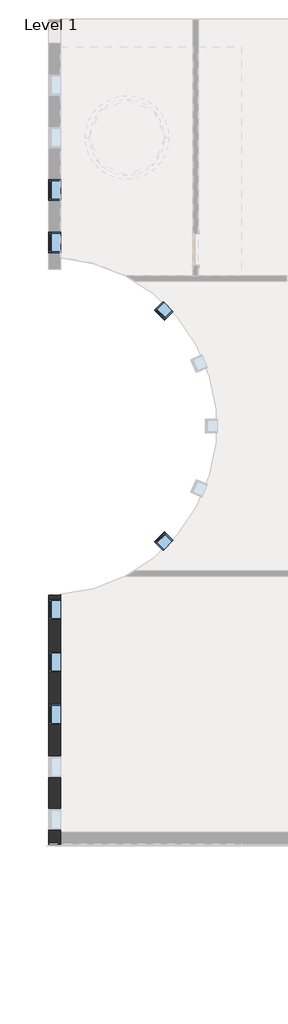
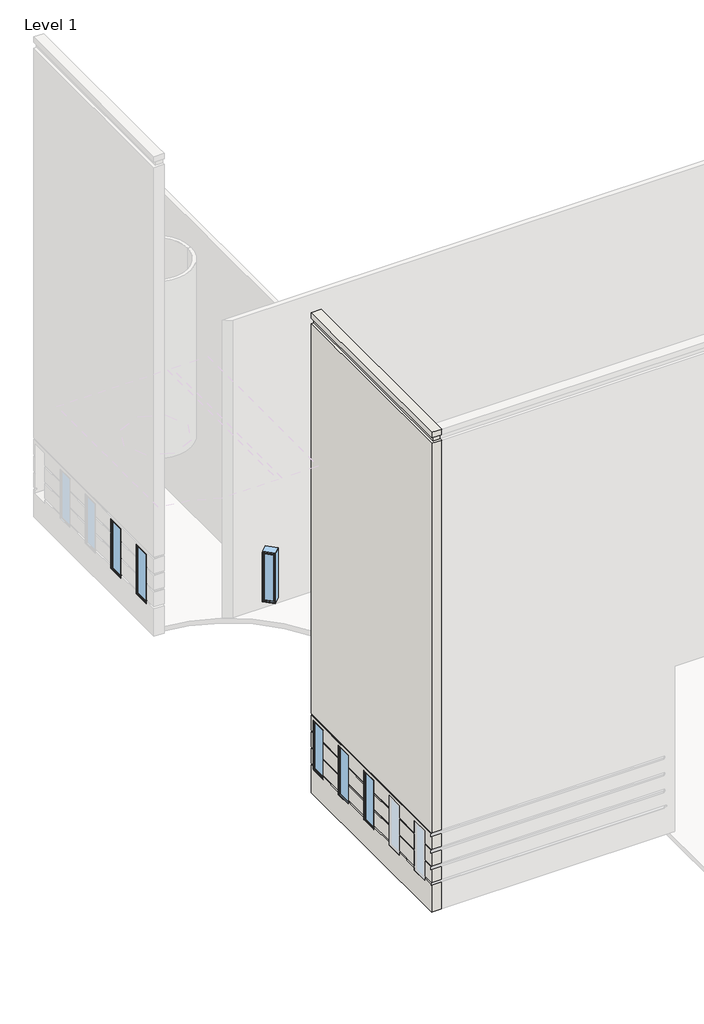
# One storey, part 5 of 16: 7 windows, 1 wall.
"""IFC4 building model written with IfcOpenShell, lengths in millimetres."""

from ifc_helpers import new_model, si_unit, frame, origin, place, context, project, spatial, polyline, circle_curve, transform, mapped, element, save
from ifc_brep_helpers import plane_surface, revolved_surface, advanced_brep
from components import window_9e2da525, window_ff99b6fa, window_103a36ab

model = new_model("IFC4")

# Units and contexts
model_context = context("Model", 3, world=origin())
ifc_project = project(units=[si_unit("LENGTHUNIT", "METRE", prefix="MILLI")], contexts=[model_context])

# Site, building, storey
site = spatial("IfcSite", under=ifc_project)
building = spatial("IfcBuilding", under=site)
storey = spatial("IfcBuildingStorey", under=building, Name="Level 1", Elevation=0.0)

# Wall
placement = place(None, origin())
element("IfcWall", 1, ObjectType="Exterior - Brick and CMU on MTL. Stud (No Parapet)", at=placement, inside=storey, context=model_context, shape_type="AdvancedBrep", body=[
    advanced_brep(
    [(-67574.5273623, 857.0987109, 17678.4), (-67574.5273623, 8124.6737109, 17678.4), (-67574.5273623, 8124.6737109, 17475.2), (-67574.5273623, 857.0987109, 17475.2), (-67574.5273623, 8124.6737109, 0.0), (-67574.5273623, 857.0987109, 0.0), (-67574.5273623, 857.0987109, 1016.0), (-67574.5273623, 1282.5487109, 1016.0), (-67574.5273623, 1282.5487109, 914.4), (-67574.5273623, 1892.1487109, 914.4), (-67574.5273623, 1892.1487109, 1016.0), (-67574.5273623, 2811.3112109, 1016.0), (-67574.5273623, 2811.3112109, 914.4), (-67574.5273623, 3420.9112109, 914.4), (-67574.5273623, 3420.9112109, 1016.0), (-67574.5273623, 4340.0737109, 1016.0), (-67574.5273623, 4340.0737109, 914.4), (-67574.5273623, 4949.6737109, 914.4), (-67574.5273623, 4949.6737109, 1016.0), (-67574.5273623, 5868.8362109, 1016.0), (-67574.5273623, 5868.8362109, 914.4), (-67574.5273623, 6478.4362109, 914.4), (-67574.5273623, 6478.4362109, 1016.0), (-67574.5273623, 7397.5987109, 1016.0), (-67574.5273623, 7397.5987109, 914.4), (-67574.5273623, 8007.1987109, 914.4), (-67574.5273623, 8007.1987109, 1016.0), (-67574.5273623, 8124.6737109, 1016.0), (-67574.5273623, 8124.6737109, 2912.5333333), (-67574.5273623, 857.0987109, 2912.5333333), (-67574.5273623, 857.0987109, 17272.0), (-67574.5273623, 8124.6737109, 17272.0), (-67574.5273623, 8124.6737109, 1625.6), (-67574.5273623, 8124.6737109, 1085.85), (-67574.5273623, 8007.1987109, 1085.85), (-67574.5273623, 8007.1987109, 1625.6), (-67574.5273623, 8124.6737109, 2235.2), (-67574.5273623, 8124.6737109, 1693.3333333), (-67574.5273623, 8007.1987109, 1693.3333333), (-67574.5273623, 8007.1987109, 2235.2), (-67574.5273623, 8124.6737109, 2844.8), (-67574.5273623, 8124.6737109, 2302.9333333), (-67574.5273623, 8007.1987109, 2302.9333333), (-67574.5273623, 8007.1987109, 2743.2), (-67574.5273623, 7397.5987109, 2743.2), (-67574.5273623, 7397.5987109, 2302.9333333), (-67574.5273623, 6478.4362109, 2302.9333333), (-67574.5273623, 6478.4362109, 2743.2), (-67574.5273623, 5868.8362109, 2743.2), (-67574.5273623, 5868.8362109, 2302.9333333), (-67574.5273623, 4949.6737109, 2302.9333333), (-67574.5273623, 4949.6737109, 2743.2), (-67574.5273623, 4340.0737109, 2743.2), (-67574.5273623, 4340.0737109, 2302.9333333), (-67574.5273623, 3420.9112109, 2302.9333333), (-67574.5273623, 3420.9112109, 2743.2), (-67574.5273623, 2811.3112109, 2743.2), (-67574.5273623, 2811.3112109, 2302.9333333), (-67574.5273623, 1892.1487109, 2302.9333333), (-67574.5273623, 1892.1487109, 2743.2), (-67574.5273623, 1282.5487109, 2743.2), (-67574.5273623, 1282.5487109, 2302.9333333), (-67574.5273623, 857.0987109, 2302.9333333), (-67574.5273623, 857.0987109, 2844.8), (-67574.5273623, 857.0987109, 1693.3333333), (-67574.5273623, 857.0987109, 2235.2), (-67574.5273623, 1282.5487109, 2235.2), (-67574.5273623, 1282.5487109, 1693.3333333), (-67574.5273623, 857.0987109, 1085.85), (-67574.5273623, 857.0987109, 1625.6), (-67574.5273623, 1282.5487109, 1625.6), (-67574.5273623, 1282.5487109, 1085.85), (-67574.5273623, 1892.1487109, 1625.6), (-67574.5273623, 2811.3112109, 1625.6), (-67574.5273623, 2811.3112109, 1085.85), (-67574.5273623, 1892.1487109, 1085.85), (-67574.5273623, 2811.3112109, 1693.3333333), (-67574.5273623, 1892.1487109, 1693.3333333), (-67574.5273623, 1892.1487109, 2235.2), (-67574.5273623, 2811.3112109, 2235.2), (-67574.5273623, 3420.9112109, 1625.6), (-67574.5273623, 4340.0737109, 1625.6), (-67574.5273623, 4340.0737109, 1085.85), (-67574.5273623, 3420.9112109, 1085.85), (-67574.5273623, 4340.0737109, 1693.3333333), (-67574.5273623, 3420.9112109, 1693.3333333), (-67574.5273623, 3420.9112109, 2235.2), (-67574.5273623, 4340.0737109, 2235.2), (-67574.5273623, 4949.6737109, 1625.6), (-67574.5273623, 5868.8362109, 1625.6), (-67574.5273623, 5868.8362109, 1085.85), (-67574.5273623, 4949.6737109, 1085.85), (-67574.5273623, 5868.8362109, 1693.3333333), (-67574.5273623, 4949.6737109, 1693.3333333), (-67574.5273623, 4949.6737109, 2235.2), (-67574.5273623, 5868.8362109, 2235.2), (-67574.5273623, 6478.4362109, 1625.6), (-67574.5273623, 7397.5987109, 1625.6), (-67574.5273623, 7397.5987109, 1085.85), (-67574.5273623, 6478.4362109, 1085.85), (-67574.5273623, 7397.5987109, 1693.3333333), (-67574.5273623, 6478.4362109, 1693.3333333), (-67574.5273623, 6478.4362109, 2235.2), (-67574.5273623, 7397.5987109, 2235.2), (-67222.1023623, 857.0987109, 0.0), (-67222.1023623, 1209.5237109, 0.0), (-67222.1023623, 8137.3008527, 0.0), (-67222.1023623, 8137.3008527, 17678.4), (-67222.1023623, 1209.5237109, 17678.4), (-67222.1023623, 857.0987109, 17678.4), (-67222.1023623, 857.0987109, 17475.2), (-67222.1023623, 949.1737109, 17475.2), (-67222.1023623, 949.1737109, 17272.0), (-67222.1023623, 857.0987109, 17272.0), (-67222.1023623, 857.0987109, 2912.5333333), (-67222.1023623, 882.4987109, 2912.5333333), (-67222.1023623, 882.4987109, 2844.8), (-67222.1023623, 857.0987109, 2844.8), (-67222.1023623, 857.0987109, 2302.9333333), (-67222.1023623, 882.4987109, 2302.9333333), (-67222.1023623, 882.4987109, 2235.2), (-67222.1023623, 857.0987109, 2235.2), (-67222.1023623, 857.0987109, 1693.3333333), (-67222.1023623, 882.4987109, 1693.3333333), (-67222.1023623, 882.4987109, 1625.6), (-67222.1023623, 857.0987109, 1625.6), (-67222.1023623, 857.0987109, 1085.85), (-67222.1023623, 949.1737109, 1085.85), (-67222.1023623, 949.1737109, 1016.0), (-67222.1023623, 857.0987109, 1016.0), (-67222.1023623, 2811.3112109, 914.4), (-67222.1023623, 2811.3112109, 2743.2), (-67222.1023623, 3420.9112109, 2743.2), (-67222.1023623, 3420.9112109, 914.4), (-67222.1023623, 4340.0737109, 914.4), (-67222.1023623, 4340.0737109, 2743.2), (-67222.1023623, 4949.6737109, 2743.2), (-67222.1023623, 4949.6737109, 914.4), (-67222.1023623, 5868.8362109, 914.4), (-67222.1023623, 5868.8362109, 2743.2), (-67222.1023623, 6478.4362109, 2743.2), (-67222.1023623, 6478.4362109, 914.4), (-67222.1023623, 1282.5487109, 914.4), (-67222.1023623, 1282.5487109, 2743.2), (-67222.1023623, 1892.1487109, 2743.2), (-67222.1023623, 1892.1487109, 914.4), (-67222.1023623, 7397.5987109, 914.4), (-67222.1023623, 7397.5987109, 2743.2), (-67222.1023623, 8007.1987109, 2743.2), (-67222.1023623, 8007.1987109, 914.4), (-67482.4523623, 857.0987109, 0.0), (-67482.4523623, 8125.5345776, 0.0), (-67549.1273623, 8007.1987109, 1693.3333333), (-67549.1273623, 8124.7392175, 1693.3333333), (-67549.1273623, 8124.7392175, 1625.6), (-67549.1273623, 8007.1987109, 1625.6), (-67549.1273623, 8007.1987109, 2302.9333333), (-67549.1273623, 8124.7392175, 2302.9333333), (-67549.1273623, 8124.7392175, 2235.2), (-67549.1273623, 8007.1987109, 2235.2), (-67549.1273623, 882.4987109, 2912.5333333), (-67549.1273623, 8124.7392175, 2912.5333333), (-67549.1273623, 8124.7392175, 2844.8), (-67549.1273623, 882.4987109, 2844.8), (-67482.4523623, 8007.1987109, 1085.85), (-67482.4523623, 8125.5345776, 1085.85), (-67482.4523623, 8125.5345776, 1016.0), (-67482.4523623, 8007.1987109, 1016.0), (-67482.4523623, 949.1737109, 17272.0), (-67482.4523623, 949.1737109, 17475.2), (-67482.4523623, 8125.5345776, 17475.2), (-67482.4523623, 8125.5345776, 17272.0), (-67549.1273623, 882.4987109, 1693.3333333), (-67549.1273623, 882.4987109, 1625.6), (-67549.1273623, 882.4987109, 2302.9333333), (-67549.1273623, 882.4987109, 2235.2), (-67482.4523623, 949.1737109, 1085.85), (-67482.4523623, 949.1737109, 1016.0), (-67482.4523623, 2811.3112109, 1016.0), (-67482.4523623, 2811.3112109, 1085.85), (-67549.1273623, 2811.3112109, 1625.6), (-67549.1273623, 2811.3112109, 1693.3333333), (-67549.1273623, 2811.3112109, 2235.2), (-67549.1273623, 2811.3112109, 2302.9333333), (-67549.1273623, 3420.9112109, 2302.9333333), (-67549.1273623, 3420.9112109, 2235.2), (-67549.1273623, 3420.9112109, 1693.3333333), (-67549.1273623, 3420.9112109, 1625.6), (-67482.4523623, 3420.9112109, 1085.85), (-67482.4523623, 3420.9112109, 1016.0), (-67482.4523623, 4340.0737109, 1016.0), (-67482.4523623, 4340.0737109, 1085.85), (-67549.1273623, 4340.0737109, 1625.6), (-67549.1273623, 4340.0737109, 1693.3333333), (-67549.1273623, 4340.0737109, 2235.2), (-67549.1273623, 4340.0737109, 2302.9333333), (-67549.1273623, 4949.6737109, 2302.9333333), (-67549.1273623, 4949.6737109, 2235.2), (-67549.1273623, 4949.6737109, 1693.3333333), (-67549.1273623, 4949.6737109, 1625.6), (-67482.4523623, 4949.6737109, 1085.85), (-67482.4523623, 4949.6737109, 1016.0), (-67482.4523623, 5868.8362109, 1016.0), (-67482.4523623, 5868.8362109, 1085.85), (-67549.1273623, 5868.8362109, 1625.6), (-67549.1273623, 5868.8362109, 1693.3333333), (-67549.1273623, 5868.8362109, 2235.2), (-67549.1273623, 5868.8362109, 2302.9333333), (-67549.1273623, 6478.4362109, 2302.9333333), (-67549.1273623, 6478.4362109, 2235.2), (-67549.1273623, 6478.4362109, 1693.3333333), (-67549.1273623, 6478.4362109, 1625.6), (-67482.4523623, 6478.4362109, 1085.85), (-67482.4523623, 6478.4362109, 1016.0), (-67482.4523623, 1282.5487109, 1016.0), (-67482.4523623, 1282.5487109, 1085.85), (-67549.1273623, 1282.5487109, 1625.6), (-67549.1273623, 1282.5487109, 1693.3333333), (-67549.1273623, 1282.5487109, 2235.2), (-67549.1273623, 1282.5487109, 2302.9333333), (-67549.1273623, 1892.1487109, 2302.9333333), (-67549.1273623, 1892.1487109, 2235.2), (-67549.1273623, 1892.1487109, 1693.3333333), (-67549.1273623, 1892.1487109, 1625.6), (-67482.4523623, 1892.1487109, 1085.85), (-67482.4523623, 1892.1487109, 1016.0), (-67482.4523623, 7397.5987109, 1016.0), (-67482.4523623, 7397.5987109, 1085.85), (-67549.1273623, 7397.5987109, 1625.6), (-67549.1273623, 7397.5987109, 1693.3333333), (-67549.1273623, 7397.5987109, 2235.2), (-67549.1273623, 7397.5987109, 2302.9333333)],
    [
        (0, 1),
        (1, 2),
        (2, 3),
        (3, 0),
        (4, 5),
        (5, 6),
        (6, 7),
        (7, 8),
        (8, 9),
        (9, 10),
        (10, 11),
        (11, 12),
        (12, 13),
        (13, 14),
        (14, 15),
        (15, 16),
        (16, 17),
        (17, 18),
        (18, 19),
        (19, 20),
        (20, 21),
        (21, 22),
        (22, 23),
        (23, 24),
        (24, 25),
        (25, 26),
        (26, 27),
        (27, 4),
        (28, 29),
        (29, 30),
        (30, 31),
        (31, 28),
        (32, 33),
        (33, 34),
        (34, 35),
        (35, 32),
        (36, 37),
        (37, 38),
        (38, 39),
        (39, 36),
        (40, 41),
        (41, 42),
        (42, 43),
        (43, 44),
        (44, 45),
        (45, 46),
        (46, 47),
        (47, 48),
        (48, 49),
        (49, 50),
        (50, 51),
        (51, 52),
        (52, 53),
        (53, 54),
        (54, 55),
        (55, 56),
        (56, 57),
        (57, 58),
        (58, 59),
        (59, 60),
        (60, 61),
        (61, 62),
        (62, 63),
        (63, 40),
        (64, 65),
        (65, 66),
        (66, 67),
        (67, 64),
        (68, 69),
        (69, 70),
        (70, 71),
        (71, 68),
        (72, 73),
        (73, 74),
        (74, 75),
        (75, 72),
        (76, 77),
        (77, 78),
        (78, 79),
        (79, 76),
        (80, 81),
        (81, 82),
        (82, 83),
        (83, 80),
        (84, 85),
        (85, 86),
        (86, 87),
        (87, 84),
        (88, 89),
        (89, 90),
        (90, 91),
        (91, 88),
        (92, 93),
        (93, 94),
        (94, 95),
        (95, 92),
        (96, 97),
        (97, 98),
        (98, 99),
        (99, 96),
        (100, 101),
        (101, 102),
        (102, 103),
        (103, 100),
        (104, 105),
        (105, 106),
        (106, 107),
        (107, 108),
        (108, 109),
        (109, 110),
        (110, 111),
        (111, 112),
        (112, 113),
        (113, 114),
        (114, 115),
        (115, 116),
        (116, 117),
        (117, 118),
        (118, 119),
        (119, 120),
        (120, 121),
        (121, 122),
        (122, 123),
        (123, 124),
        (124, 125),
        (125, 126),
        (126, 127),
        (127, 128),
        (128, 129),
        (129, 104),
        (130, 131),
        (131, 132),
        (132, 133),
        (133, 130),
        (134, 135),
        (135, 136),
        (136, 137),
        (137, 134),
        (138, 139),
        (139, 140),
        (140, 141),
        (141, 138),
        (142, 143),
        (143, 144),
        (144, 145),
        (145, 142),
        (146, 147),
        (147, 148),
        (148, 149),
        (149, 146),
        (0, 109),
        (107, 1, circle_curve(frame((-67574.5273623, 13049.0987109, 17678.4), z_axis=(0.0, 0.0, -1.0), x_axis=(1.0, 0.0, 0.0)), 4924.425)),
        (104, 150),
        (150, 151),
        (151, 106, circle_curve(frame((-67574.5273623, 13049.0987109, 0.0), z_axis=(0.0, 0.0, 1.0), x_axis=(1.0, 0.0, 0.0)), 4924.425)),
        (152, 153),
        (153, 154),
        (154, 155),
        (155, 152),
        (156, 157),
        (157, 158),
        (158, 159),
        (159, 156),
        (160, 161),
        (161, 162),
        (162, 163),
        (163, 160),
        (164, 165),
        (165, 166),
        (166, 167),
        (167, 164),
        (168, 169),
        (169, 170),
        (170, 171),
        (171, 168),
        (151, 4, circle_curve(frame((-67574.5273623, 13049.0987109, 0.0), z_axis=(0.0, 0.0, -1.0), x_axis=(1.0, 0.0, 0.0)), 4924.425)),
        (27, 166, circle_curve(frame((-67574.5273623, 13049.0987109, 1016.0), z_axis=(0.0, 0.0, 1.0), x_axis=(1.0, 0.0, 0.0)), 4924.425)),
        (165, 33, circle_curve(frame((-67574.5273623, 13049.0987109, 1085.85), z_axis=(0.0, 0.0, -1.0), x_axis=(1.0, 0.0, 0.0)), 4924.425)),
        (32, 154, circle_curve(frame((-67574.5273623, 13049.0987109, 1625.6), z_axis=(0.0, 0.0, 1.0), x_axis=(1.0, 0.0, 0.0)), 4924.425)),
        (153, 37, circle_curve(frame((-67574.5273623, 13049.0987109, 1693.3333333), z_axis=(0.0, 0.0, -1.0), x_axis=(1.0, 0.0, 0.0)), 4924.425)),
        (36, 158, circle_curve(frame((-67574.5273623, 13049.0987109, 2235.2), z_axis=(0.0, 0.0, 1.0), x_axis=(1.0, 0.0, 0.0)), 4924.425)),
        (157, 41, circle_curve(frame((-67574.5273623, 13049.0987109, 2302.9333333), z_axis=(0.0, 0.0, -1.0), x_axis=(1.0, 0.0, 0.0)), 4924.425)),
        (40, 162, circle_curve(frame((-67574.5273623, 13049.0987109, 2844.8), z_axis=(0.0, 0.0, 1.0), x_axis=(1.0, 0.0, 0.0)), 4924.425)),
        (161, 28, circle_curve(frame((-67574.5273623, 13049.0987109, 2912.5333333), z_axis=(0.0, 0.0, -1.0), x_axis=(1.0, 0.0, 0.0)), 4924.425)),
        (31, 171, circle_curve(frame((-67574.5273623, 13049.0987109, 17272.0), z_axis=(0.0, 0.0, 1.0), x_axis=(1.0, 0.0, 0.0)), 4924.425)),
        (170, 2, circle_curve(frame((-67574.5273623, 13049.0987109, 17475.2), z_axis=(0.0, 0.0, -1.0), x_axis=(1.0, 0.0, 0.0)), 4924.425)),
        (150, 5),
        (63, 117),
        (116, 163),
        (160, 115),
        (114, 29),
        (169, 111),
        (110, 3),
        (112, 168),
        (30, 113),
        (129, 6),
        (64, 122),
        (121, 65),
        (62, 118),
        (68, 126),
        (125, 69),
        (172, 173),
        (173, 124),
        (123, 172),
        (174, 175),
        (175, 120),
        (119, 174),
        (176, 177),
        (177, 128),
        (127, 176),
        (130, 12),
        (11, 178),
        (178, 179),
        (179, 74),
        (73, 180),
        (180, 181),
        (181, 76),
        (79, 182),
        (182, 183),
        (183, 57),
        (56, 131),
        (133, 13),
        (132, 55),
        (54, 184),
        (184, 185),
        (185, 86),
        (85, 186),
        (186, 187),
        (187, 80),
        (83, 188),
        (188, 189),
        (189, 14),
        (134, 16),
        (15, 190),
        (190, 191),
        (191, 82),
        (81, 192),
        (192, 193),
        (193, 84),
        (87, 194),
        (194, 195),
        (195, 53),
        (52, 135),
        (137, 17),
        (136, 51),
        (50, 196),
        (196, 197),
        (197, 94),
        (93, 198),
        (198, 199),
        (199, 88),
        (91, 200),
        (200, 201),
        (201, 18),
        (138, 20),
        (19, 202),
        (202, 203),
        (203, 90),
        (89, 204),
        (204, 205),
        (205, 92),
        (95, 206),
        (206, 207),
        (207, 49),
        (48, 139),
        (141, 21),
        (140, 47),
        (46, 208),
        (208, 209),
        (209, 102),
        (101, 210),
        (210, 211),
        (211, 96),
        (99, 212),
        (212, 213),
        (213, 22),
        (142, 8),
        (7, 214),
        (214, 215),
        (215, 71),
        (70, 216),
        (216, 217),
        (217, 67),
        (66, 218),
        (218, 219),
        (219, 61),
        (60, 143),
        (145, 9),
        (144, 59),
        (58, 220),
        (220, 221),
        (221, 78),
        (77, 222),
        (222, 223),
        (223, 72),
        (75, 224),
        (224, 225),
        (225, 10),
        (146, 24),
        (23, 226),
        (226, 227),
        (227, 98),
        (97, 228),
        (228, 229),
        (229, 100),
        (103, 230),
        (230, 231),
        (231, 45),
        (44, 147),
        (149, 25),
        (148, 43),
        (42, 156),
        (159, 39),
        (38, 152),
        (155, 35),
        (34, 164),
        (167, 26),
        (172, 217),
        (216, 173),
        (222, 181),
        (180, 223),
        (186, 193),
        (192, 187),
        (198, 205),
        (204, 199),
        (210, 229),
        (228, 211),
        (174, 219),
        (218, 175),
        (220, 183),
        (182, 221),
        (184, 195),
        (194, 185),
        (196, 207),
        (206, 197),
        (208, 231),
        (230, 209),
        (176, 215),
        (214, 177),
        (224, 179),
        (178, 225),
        (188, 191),
        (190, 189),
        (200, 203),
        (202, 201),
        (212, 227),
        (226, 213),
    ],
    [
        plane_surface(frame((-67574.5273623, 8477.0987109, 0.0), z_axis=(-1.0, 0.0, 0.0), x_axis=(0.0, -1.0, 0.0))),
        plane_surface(frame((-67222.1023623, 8477.0987109, 0.0), z_axis=(1.0, 0.0, 0.0), x_axis=(0.0, 1.0, 0.0))),
        plane_surface(frame((-67574.5273623, 1033.3112109, 17678.4), z_axis=(0.0, 0.0, 1.0), x_axis=(1.0, 0.0, 0.0))),
        plane_surface(frame((-67574.5273623, 8304.157078, 0.0), z_axis=(0.0, 0.0, -1.0), x_axis=(1.0, 0.0, 0.0))),
        plane_surface(frame((-67549.1273623, 8451.7688772, 1693.3333333), z_axis=(-1.0, 0.0, 0.0), x_axis=(0.0, -1.0, 0.0))),
        plane_surface(frame((-67549.1273623, 8451.7688772, 2302.9333333), z_axis=(-1.0, 0.0, 0.0), x_axis=(0.0, -1.0, 0.0))),
        plane_surface(frame((-67549.1273623, 8451.7688772, 2912.5333333), z_axis=(-1.0, 0.0, 0.0), x_axis=(0.0, -1.0, 0.0))),
        plane_surface(frame((-67482.4523623, 8385.9326405, 1085.85), z_axis=(-1.0, 0.0, 0.0), x_axis=(0.0, -1.0, 0.0))),
        plane_surface(frame((-67482.4523623, 8385.9326405, 17475.2), z_axis=(-1.0, 0.0, 0.0), x_axis=(0.0, -1.0, 0.0))),
        revolved_surface(polyline([(-62650.10236229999, 13049.0987109, 17678.4), (-62650.10236229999, 13049.0987109, 0.0)]), (-67574.5273623, 13049.0987109, 0.0), (0.0, 0.0, 1.0)),
        plane_surface(frame((0.0, 0.0, 0.0), z_axis=(0.0, 0.0, -1.0), x_axis=(1.0, 0.0, 0.0))),
        plane_surface(frame((-67574.5273623, 13049.0987109, 2844.8), z_axis=(0.0, 0.0, 1.0), x_axis=(0.0, 1.0, 0.0))),
        plane_surface(frame((-67574.5273623, 13049.0987109, 2912.5333333), z_axis=(0.0, 0.0, -1.0), x_axis=(0.0, 1.0, 0.0))),
        plane_surface(frame((-67574.5273623, 13049.0987109, 17475.2), z_axis=(0.0, 0.0, -1.0), x_axis=(0.0, 1.0, 0.0))),
        plane_surface(frame((-67574.5273623, 13049.0987109, 17272.0), z_axis=(0.0, 0.0, 1.0), x_axis=(0.0, 1.0, 0.0))),
        plane_surface(frame((-67531.5178153, 857.0987109, 0.0), z_axis=(0.0, -1.0, 0.0), x_axis=(1.0, 0.0, 0.0))),
        plane_surface(frame((-67549.1273623, 882.4987109, 1693.3333333), z_axis=(0.0, -1.0, 0.0), x_axis=(1.0, 0.0, 0.0))),
        plane_surface(frame((-67549.1273623, 882.4987109, 2302.9333333), z_axis=(0.0, -1.0, 0.0), x_axis=(1.0, 0.0, 0.0))),
        plane_surface(frame((-67549.1273623, 882.4987109, 2912.5333333), z_axis=(0.0, -1.0, 0.0), x_axis=(1.0, 0.0, 0.0))),
        plane_surface(frame((-67482.4523623, 949.1737109, 1085.85), z_axis=(0.0, -1.0, 0.0), x_axis=(1.0, 0.0, 0.0))),
        plane_surface(frame((-67482.4523623, 949.1737109, 17475.2), z_axis=(0.0, -1.0, 0.0), x_axis=(1.0, 0.0, 0.0))),
        plane_surface(frame((-67574.5273623, 2811.3112109, 2743.2), z_axis=(0.0, 1.0, 0.0), x_axis=(1.0, 0.0, 0.0))),
        plane_surface(frame((-67574.5273623, 2811.3112109, 914.4), z_axis=(0.0, 0.0, 1.0), x_axis=(1.0, 0.0, 0.0))),
        plane_surface(frame((-67574.5273623, 3420.9112109, 914.4), z_axis=(0.0, -1.0, 0.0), x_axis=(1.0, 0.0, 0.0))),
        plane_surface(frame((-67574.5273623, 3420.9112109, 2743.2), z_axis=(0.0, 0.0, -1.0), x_axis=(1.0, 0.0, 0.0))),
        plane_surface(frame((-67574.5273623, 4340.0737109, 2743.2), z_axis=(0.0, 1.0, 0.0), x_axis=(1.0, 0.0, 0.0))),
        plane_surface(frame((-67574.5273623, 4340.0737109, 914.4), z_axis=(0.0, 0.0, 1.0), x_axis=(1.0, 0.0, 0.0))),
        plane_surface(frame((-67574.5273623, 4949.6737109, 914.4), z_axis=(0.0, -1.0, 0.0), x_axis=(1.0, 0.0, 0.0))),
        plane_surface(frame((-67574.5273623, 4949.6737109, 2743.2), z_axis=(0.0, 0.0, -1.0), x_axis=(1.0, 0.0, 0.0))),
        plane_surface(frame((-67574.5273623, 5868.8362109, 2743.2), z_axis=(0.0, 1.0, 0.0), x_axis=(1.0, 0.0, 0.0))),
        plane_surface(frame((-67574.5273623, 5868.8362109, 914.4), z_axis=(0.0, 0.0, 1.0), x_axis=(1.0, 0.0, 0.0))),
        plane_surface(frame((-67574.5273623, 6478.4362109, 914.4), z_axis=(0.0, -1.0, 0.0), x_axis=(1.0, 0.0, 0.0))),
        plane_surface(frame((-67574.5273623, 6478.4362109, 2743.2), z_axis=(0.0, 0.0, -1.0), x_axis=(1.0, 0.0, 0.0))),
        plane_surface(frame((-67574.5273623, 1282.5487109, 2743.2), z_axis=(0.0, 1.0, 0.0), x_axis=(1.0, 0.0, 0.0))),
        plane_surface(frame((-67574.5273623, 1282.5487109, 914.4), z_axis=(0.0, 0.0, 1.0), x_axis=(1.0, 0.0, 0.0))),
        plane_surface(frame((-67574.5273623, 1892.1487109, 914.4), z_axis=(0.0, -1.0, 0.0), x_axis=(1.0, 0.0, 0.0))),
        plane_surface(frame((-67574.5273623, 1892.1487109, 2743.2), z_axis=(0.0, 0.0, -1.0), x_axis=(1.0, 0.0, 0.0))),
        plane_surface(frame((-67574.5273623, 7397.5987109, 2743.2), z_axis=(0.0, 1.0, 0.0), x_axis=(1.0, 0.0, 0.0))),
        plane_surface(frame((-67574.5273623, 7397.5987109, 914.4), z_axis=(0.0, 0.0, 1.0), x_axis=(1.0, 0.0, 0.0))),
        plane_surface(frame((-67574.5273623, 8007.1987109, 914.4), z_axis=(0.0, -1.0, 0.0), x_axis=(1.0, 0.0, 0.0))),
        plane_surface(frame((-67574.5273623, 8007.1987109, 2743.2), z_axis=(0.0, 0.0, -1.0), x_axis=(1.0, 0.0, 0.0))),
        plane_surface(frame((-67549.1273623, 1282.5487109, 1693.3333333), z_axis=(-1.0, 0.0, 0.0), x_axis=(0.0, -1.0, 0.0))),
        plane_surface(frame((-67549.1273623, 1282.5487109, 1625.6), z_axis=(0.0, 0.0, 1.0), x_axis=(0.0, -1.0, 0.0))),
        plane_surface(frame((-67641.2023623, 1282.5487109, 1693.3333333), z_axis=(0.0, 0.0, -1.0), x_axis=(0.0, -1.0, 0.0))),
        plane_surface(frame((-67549.1273623, 2811.3112109, 1693.3333333), z_axis=(-1.0, 0.0, 0.0), x_axis=(0.0, -1.0, 0.0))),
        plane_surface(frame((-67549.1273623, 2811.3112109, 1625.6), z_axis=(0.0, 0.0, 1.0), x_axis=(0.0, -1.0, 0.0))),
        plane_surface(frame((-67641.2023623, 2811.3112109, 1693.3333333), z_axis=(0.0, 0.0, -1.0), x_axis=(0.0, -1.0, 0.0))),
        plane_surface(frame((-67549.1273623, 4340.0737109, 1693.3333333), z_axis=(-1.0, 0.0, 0.0), x_axis=(0.0, -1.0, 0.0))),
        plane_surface(frame((-67549.1273623, 4340.0737109, 1625.6), z_axis=(0.0, 0.0, 1.0), x_axis=(0.0, -1.0, 0.0))),
        plane_surface(frame((-67641.2023623, 4340.0737109, 1693.3333333), z_axis=(0.0, 0.0, -1.0), x_axis=(0.0, -1.0, 0.0))),
        plane_surface(frame((-67549.1273623, 5868.8362109, 1693.3333333), z_axis=(-1.0, 0.0, 0.0), x_axis=(0.0, -1.0, 0.0))),
        plane_surface(frame((-67549.1273623, 5868.8362109, 1625.6), z_axis=(0.0, 0.0, 1.0), x_axis=(0.0, -1.0, 0.0))),
        plane_surface(frame((-67641.2023623, 5868.8362109, 1693.3333333), z_axis=(0.0, 0.0, -1.0), x_axis=(0.0, -1.0, 0.0))),
        plane_surface(frame((-67549.1273623, 7397.5987109, 1693.3333333), z_axis=(-1.0, 0.0, 0.0), x_axis=(0.0, -1.0, 0.0))),
        plane_surface(frame((-67549.1273623, 7397.5987109, 1625.6), z_axis=(0.0, 0.0, 1.0), x_axis=(0.0, -1.0, 0.0))),
        plane_surface(frame((-67641.2023623, 7397.5987109, 1693.3333333), z_axis=(0.0, 0.0, -1.0), x_axis=(0.0, -1.0, 0.0))),
        plane_surface(frame((-67574.5273623, 13049.0987109, 1625.6), z_axis=(0.0, 0.0, 1.0), x_axis=(0.6749810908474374, -0.7378350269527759, 0.0))),
        plane_surface(frame((-67574.5273623, 13049.0987109, 1693.3333333), z_axis=(0.0, 0.0, -1.0), x_axis=(0.6749810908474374, -0.7378350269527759, 0.0))),
        plane_surface(frame((-67549.1273623, 1282.5487109, 2302.9333333), z_axis=(-1.0, 0.0, 0.0), x_axis=(0.0, -1.0, 0.0))),
        plane_surface(frame((-67549.1273623, 1282.5487109, 2235.2), z_axis=(0.0, 0.0, 1.0), x_axis=(0.0, -1.0, 0.0))),
        plane_surface(frame((-67641.2023623, 1282.5487109, 2302.9333333), z_axis=(0.0, 0.0, -1.0), x_axis=(0.0, -1.0, 0.0))),
        plane_surface(frame((-67549.1273623, 2811.3112109, 2302.9333333), z_axis=(-1.0, 0.0, 0.0), x_axis=(0.0, -1.0, 0.0))),
        plane_surface(frame((-67549.1273623, 2811.3112109, 2235.2), z_axis=(0.0, 0.0, 1.0), x_axis=(0.0, -1.0, 0.0))),
        plane_surface(frame((-67641.2023623, 2811.3112109, 2302.9333333), z_axis=(0.0, 0.0, -1.0), x_axis=(0.0, -1.0, 0.0))),
        plane_surface(frame((-67549.1273623, 4340.0737109, 2302.9333333), z_axis=(-1.0, 0.0, 0.0), x_axis=(0.0, -1.0, 0.0))),
        plane_surface(frame((-67549.1273623, 4340.0737109, 2235.2), z_axis=(0.0, 0.0, 1.0), x_axis=(0.0, -1.0, 0.0))),
        plane_surface(frame((-67641.2023623, 4340.0737109, 2302.9333333), z_axis=(0.0, 0.0, -1.0), x_axis=(0.0, -1.0, 0.0))),
        plane_surface(frame((-67549.1273623, 5868.8362109, 2302.9333333), z_axis=(-1.0, 0.0, 0.0), x_axis=(0.0, -1.0, 0.0))),
        plane_surface(frame((-67549.1273623, 5868.8362109, 2235.2), z_axis=(0.0, 0.0, 1.0), x_axis=(0.0, -1.0, 0.0))),
        plane_surface(frame((-67641.2023623, 5868.8362109, 2302.9333333), z_axis=(0.0, 0.0, -1.0), x_axis=(0.0, -1.0, 0.0))),
        plane_surface(frame((-67549.1273623, 7397.5987109, 2302.9333333), z_axis=(-1.0, 0.0, 0.0), x_axis=(0.0, -1.0, 0.0))),
        plane_surface(frame((-67549.1273623, 7397.5987109, 2235.2), z_axis=(0.0, 0.0, 1.0), x_axis=(0.0, -1.0, 0.0))),
        plane_surface(frame((-67641.2023623, 7397.5987109, 2302.9333333), z_axis=(0.0, 0.0, -1.0), x_axis=(0.0, -1.0, 0.0))),
        plane_surface(frame((-67574.5273623, 13049.0987109, 2235.2), z_axis=(0.0, 0.0, 1.0), x_axis=(0.6749810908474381, -0.7378350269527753, 0.0))),
        plane_surface(frame((-67574.5273623, 13049.0987109, 2302.9333333), z_axis=(0.0, 0.0, -1.0), x_axis=(0.6749810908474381, -0.7378350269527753, 0.0))),
        plane_surface(frame((-67482.4523623, 1282.5487109, 1085.85), z_axis=(-1.0, 0.0, 0.0), x_axis=(0.0, -1.0, 0.0))),
        plane_surface(frame((-67482.4523623, 1282.5487109, 1016.0), z_axis=(0.0, 0.0, 1.0), x_axis=(0.0, -1.0, 0.0))),
        plane_surface(frame((-67574.5273623, 1282.5487109, 1085.85), z_axis=(0.0, 0.0, -1.0), x_axis=(0.0, -1.0, 0.0))),
        plane_surface(frame((-67482.4523623, 2811.3112109, 1085.85), z_axis=(-1.0, 0.0, 0.0), x_axis=(0.0, -1.0, 0.0))),
        plane_surface(frame((-67482.4523623, 2811.3112109, 1016.0), z_axis=(0.0, 0.0, 1.0), x_axis=(0.0, -1.0, 0.0))),
        plane_surface(frame((-67574.5273623, 2811.3112109, 1085.85), z_axis=(0.0, 0.0, -1.0), x_axis=(0.0, -1.0, 0.0))),
        plane_surface(frame((-67482.4523623, 4340.0737109, 1085.85), z_axis=(-1.0, 0.0, 0.0), x_axis=(0.0, -1.0, 0.0))),
        plane_surface(frame((-67482.4523623, 4340.0737109, 1016.0), z_axis=(0.0, 0.0, 1.0), x_axis=(0.0, -1.0, 0.0))),
        plane_surface(frame((-67574.5273623, 4340.0737109, 1085.85), z_axis=(0.0, 0.0, -1.0), x_axis=(0.0, -1.0, 0.0))),
        plane_surface(frame((-67482.4523623, 5868.8362109, 1085.85), z_axis=(-1.0, 0.0, 0.0), x_axis=(0.0, -1.0, 0.0))),
        plane_surface(frame((-67482.4523623, 5868.8362109, 1016.0), z_axis=(0.0, 0.0, 1.0), x_axis=(0.0, -1.0, 0.0))),
        plane_surface(frame((-67574.5273623, 5868.8362109, 1085.85), z_axis=(0.0, 0.0, -1.0), x_axis=(0.0, -1.0, 0.0))),
        plane_surface(frame((-67482.4523623, 7397.5987109, 1085.85), z_axis=(-1.0, 0.0, 0.0), x_axis=(0.0, -1.0, 0.0))),
        plane_surface(frame((-67482.4523623, 7397.5987109, 1016.0), z_axis=(0.0, 0.0, 1.0), x_axis=(0.0, -1.0, 0.0))),
        plane_surface(frame((-67574.5273623, 7397.5987109, 1085.85), z_axis=(0.0, 0.0, -1.0), x_axis=(0.0, -1.0, 0.0))),
        plane_surface(frame((-67574.5273623, 13049.0987109, 1016.0), z_axis=(0.0, 0.0, 1.0000000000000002), x_axis=(0.6749810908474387, -0.7378350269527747, 0.0))),
        plane_surface(frame((-67574.5273623, 13049.0987109, 1085.85), z_axis=(0.0, 0.0, -1.0000000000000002), x_axis=(0.6749810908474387, -0.7378350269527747, 0.0))),
    ],
    [
        (0, [[1, 2, 3, 4]]),
        (0, [[5, 6, 7, 8, 9, 10, 11, 12, 13, 14, 15, 16, 17, 18, 19, 20, 21, 22, 23, 24, 25, 26, 27, 28]]),
        (0, [[29, 30, 31, 32]]),
        (0, [[33, 34, 35, 36]]),
        (0, [[37, 38, 39, 40]]),
        (0, [[41, 42, 43, 44, 45, 46, 47, 48, 49, 50, 51, 52, 53, 54, 55, 56, 57, 58, 59, 60, 61, 62, 63, 64]]),
        (0, [[65, 66, 67, 68]]),
        (0, [[69, 70, 71, 72]]),
        (0, [[73, 74, 75, 76]]),
        (0, [[77, 78, 79, 80]]),
        (0, [[81, 82, 83, 84]]),
        (0, [[85, 86, 87, 88]]),
        (0, [[89, 90, 91, 92]]),
        (0, [[93, 94, 95, 96]]),
        (0, [[97, 98, 99, 100]]),
        (0, [[101, 102, 103, 104]]),
        (1, [[105, 106, 107, 108, 109, 110, 111, 112, 113, 114, 115, 116, 117, 118, 119, 120, 121, 122, 123, 124, 125, 126, 127, 128, 129, 130], [131, 132, 133, 134], [135, 136, 137, 138], [139, 140, 141, 142], [143, 144, 145, 146], [147, 148, 149, 150]]),
        (2, [[-1, 151, -109, -108, 152]]),
        (3, [[-106, -105, 153, 154, 155]]),
        (4, [[156, 157, 158, 159]]),
        (5, [[160, 161, 162, 163]]),
        (6, [[164, 165, 166, 167]]),
        (7, [[168, 169, 170, 171]]),
        (8, [[172, 173, 174, 175]]),
        (9, [[-152, -107, -155, 176, -28, 177, -169, 178, -33, 179, -157, 180, -37, 181, -161, 182, -41, 183, -165, 184, -32, 185, -174, 186, -2]]),
        (10, [[-5, -176, -154, 187]]),
        (11, [[-166, -183, -64, 188, -117, 189]]),
        (12, [[-164, 190, -115, 191, -29, -184]]),
        (13, [[-173, 192, -111, 193, -3, -186]]),
        (14, [[194, -175, -185, -31, 195, -113]]),
        (15, [[-151, -4, -193, -110]]),
        (15, [[-153, -130, 196, -6, -187]]),
        (15, [[-65, 197, -122, 198]]),
        (15, [[-63, 199, -118, -188]]),
        (15, [[-191, -114, -195, -30]]),
        (15, [[-69, 200, -126, 201]]),
        (16, [[202, 203, -124, 204]]),
        (17, [[205, 206, -120, 207]]),
        (18, [[-167, -189, -116, -190]]),
        (19, [[208, 209, -128, 210]]),
        (20, [[-172, -194, -112, -192]]),
        (21, [[-131, 211, -12, 212, 213, 214, -74, 215, 216, 217, -80, 218, 219, 220, -57, 221]]),
        (22, [[-13, -211, -134, 222]]),
        (23, [[-133, 223, -55, 224, 225, 226, -86, 227, 228, 229, -84, 230, 231, 232, -14, -222]]),
        (24, [[-56, -223, -132, -221]]),
        (25, [[-135, 233, -16, 234, 235, 236, -82, 237, 238, 239, -88, 240, 241, 242, -53, 243]]),
        (26, [[-17, -233, -138, 244]]),
        (27, [[-137, 245, -51, 246, 247, 248, -94, 249, 250, 251, -92, 252, 253, 254, -18, -244]]),
        (28, [[-52, -245, -136, -243]]),
        (29, [[-139, 255, -20, 256, 257, 258, -90, 259, 260, 261, -96, 262, 263, 264, -49, 265]]),
        (30, [[-21, -255, -142, 266]]),
        (31, [[-141, 267, -47, 268, 269, 270, -102, 271, 272, 273, -100, 274, 275, 276, -22, -266]]),
        (32, [[-48, -267, -140, -265]]),
        (33, [[-143, 277, -8, 278, 279, 280, -71, 281, 282, 283, -67, 284, 285, 286, -61, 287]]),
        (34, [[-9, -277, -146, 288]]),
        (35, [[-145, 289, -59, 290, 291, 292, -78, 293, 294, 295, -76, 296, 297, 298, -10, -288]]),
        (36, [[-60, -289, -144, -287]]),
        (37, [[-147, 299, -24, 300, 301, 302, -98, 303, 304, 305, -104, 306, 307, 308, -45, 309]]),
        (38, [[-25, -299, -150, 310]]),
        (39, [[-149, 311, -43, 312, -163, 313, -39, 314, -159, 315, -35, 316, -171, 317, -26, -310]]),
        (40, [[-44, -311, -148, -309]]),
        (41, [[-202, 318, -282, 319]]),
        (42, [[-203, -319, -281, -70, -201, -125]]),
        (43, [[-204, -123, -197, -68, -283, -318]]),
        (44, [[320, -216, 321, -294]]),
        (45, [[-321, -215, -73, -295]]),
        (46, [[-320, -293, -77, -217]]),
        (47, [[322, -238, 323, -228]]),
        (48, [[-323, -237, -81, -229]]),
        (49, [[-322, -227, -85, -239]]),
        (50, [[324, -260, 325, -250]]),
        (51, [[-325, -259, -89, -251]]),
        (52, [[-324, -249, -93, -261]]),
        (53, [[326, -304, 327, -272]]),
        (54, [[-327, -303, -97, -273]]),
        (55, [[-326, -271, -101, -305]]),
        (56, [[-158, -179, -36, -315]]),
        (57, [[-156, -314, -38, -180]]),
        (58, [[-205, 328, -285, 329]]),
        (59, [[-206, -329, -284, -66, -198, -121]]),
        (60, [[-207, -119, -199, -62, -286, -328]]),
        (61, [[330, -219, 331, -291]]),
        (62, [[-331, -218, -79, -292]]),
        (63, [[-330, -290, -58, -220]]),
        (64, [[332, -241, 333, -225]]),
        (65, [[-333, -240, -87, -226]]),
        (66, [[-332, -224, -54, -242]]),
        (67, [[334, -263, 335, -247]]),
        (68, [[-335, -262, -95, -248]]),
        (69, [[-334, -246, -50, -264]]),
        (70, [[336, -307, 337, -269]]),
        (71, [[-337, -306, -103, -270]]),
        (72, [[-336, -268, -46, -308]]),
        (73, [[-162, -181, -40, -313]]),
        (74, [[-160, -312, -42, -182]]),
        (75, [[-208, 338, -279, 339]]),
        (76, [[-209, -339, -278, -7, -196, -129]]),
        (77, [[-210, -127, -200, -72, -280, -338]]),
        (78, [[340, -213, 341, -297]]),
        (79, [[-341, -212, -11, -298]]),
        (80, [[-340, -296, -75, -214]]),
        (81, [[342, -235, 343, -231]]),
        (82, [[-343, -234, -15, -232]]),
        (83, [[-342, -230, -83, -236]]),
        (84, [[344, -257, 345, -253]]),
        (85, [[-345, -256, -19, -254]]),
        (86, [[-344, -252, -91, -258]]),
        (87, [[346, -301, 347, -275]]),
        (88, [[-347, -300, -23, -276]]),
        (89, [[-346, -274, -99, -302]]),
        (90, [[-170, -177, -27, -317]]),
        (91, [[-168, -316, -34, -178]]),
    ],
),
])

# Windows
window_shape = window_9e2da525(model_context)
element("IfcWindow", 2, ObjectType="Fixed : 16\" x 72\"", at=placement, inside=storey, context=model_context, shape_type="MappedRepresentation", body=[
    mapped(window_shape, transform((-64246.9406052, 16430.5670047, 609.6), x_axis=(-0.707106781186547, 0.707106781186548, 0.0), y_axis=(-0.707106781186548, -0.707106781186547, 0.0), z_axis=(0.0, 0.0, 1.0))),
])
element("IfcWindow", 3, ObjectType="Fixed : 16\" x 72\"", at=placement, inside=storey, context=model_context, shape_type="MappedRepresentation", body=[
    mapped(window_shape, transform((-64193.0590685, 9721.5119538, 609.6), x_axis=(0.707106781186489, 0.7071067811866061, 0.0), y_axis=(-0.7071067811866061, 0.707106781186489, 0.0), z_axis=(0.0, 0.0, 1.0))),
])
window_2_shape = window_ff99b6fa(model_context)
element("IfcWindow", 4, ObjectType="Fixed : 24\" x 72\"", at=placement, inside=storey, context=model_context, shape_type="MappedRepresentation", body=[
    mapped(window_2_shape, transform((-67398.3148623, 7664.2987109, 609.6), x_axis=(0.0, -1.0, 0.0), y_axis=(1.0, 0.0, 0.0), z_axis=(0.0, 0.0, 1.0))),
])
element("IfcWindow", 5, ObjectType="Fixed : 24\" x 72\"", at=placement, inside=storey, context=model_context, shape_type="MappedRepresentation", body=[
    mapped(window_2_shape, transform((-67398.3148623, 6135.5362109, 609.6), x_axis=(0.0, -1.0, 0.0), y_axis=(1.0, 0.0, 0.0), z_axis=(0.0, 0.0, 1.0))),
])
element("IfcWindow", 6, ObjectType="Fixed : 24\" x 72\"", at=placement, inside=storey, context=model_context, shape_type="MappedRepresentation", body=[
    mapped(window_2_shape, transform((-67398.3148623, 4606.7737109, 609.6), x_axis=(0.0, -1.0, 0.0), y_axis=(1.0, 0.0, 0.0), z_axis=(0.0, 0.0, 1.0))),
])
window_3_shape = window_103a36ab(model_context)
element("IfcWindow", 7, ObjectType="Fixed : 24\" x 72\"", at=placement, inside=storey, context=model_context, shape_type="MappedRepresentation", body=[
    mapped(window_3_shape, transform((-67398.3148623, 18433.8987109, 609.6), x_axis=(0.0, 1.0, 0.0), y_axis=(-1.0, 0.0, 0.0), z_axis=(0.0, 0.0, 1.0))),
])
element("IfcWindow", 8, ObjectType="Fixed : 24\" x 72\"", at=placement, inside=storey, context=model_context, shape_type="MappedRepresentation", body=[
    mapped(window_3_shape, transform((-67398.3148623, 19962.6612109, 609.6), x_axis=(0.0, 1.0, 0.0), y_axis=(-1.0, 0.0, 0.0), z_axis=(0.0, 0.0, 1.0))),
])

save(model, "model.ifc")
